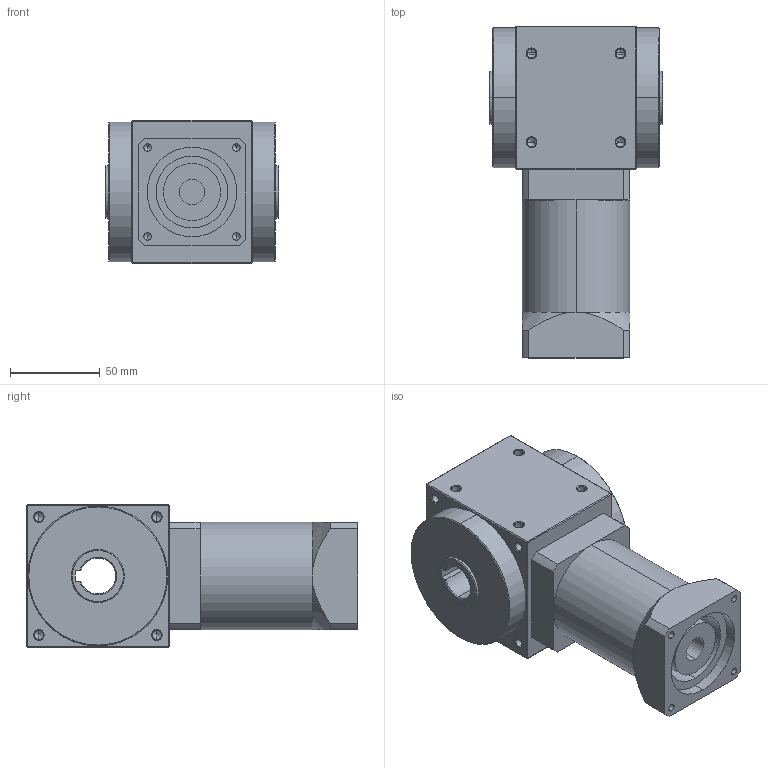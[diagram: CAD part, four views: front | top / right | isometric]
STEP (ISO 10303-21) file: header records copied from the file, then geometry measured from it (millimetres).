
FILE_DESCRIPTION (( 'STEP AP214' ), '1' );
FILE_NAME ('RXW080AS-L1-CR-19-70-90-M6.STEP', '2020-11-23T05:36:55', ( '微软用户' ), ( '微软中国' ), 'SwSTEP 2.0', 'SolidWorks 2014', '' );
FILE_SCHEMA (( 'AUTOMOTIVE_DESIGN' ));
Length unit declared in the file: millimetre
Products named in the file (2): RXW080AS-L1-CR-19-70-90-M6
Bounding box: 97 x 185 x 80 mm (x, y, z)
Volume: 819032.1 mm3; surface area: 86790.4 mm2
Topology: 2 solids, 2 shells, 247 faces, 556 edges, 306 vertices
Faces by surface type: cone 116, cylinder 79, plane 52
Entity records: 8826 total; most frequent: CARTESIAN_POINT 1289, DIRECTION 1216, ORIENTED_EDGE 1048, EDGE_CURVE 524, AXIS2_PLACEMENT_3D 477, VERTEX_POINT 306, EDGE_LOOP 282, LINE 262
